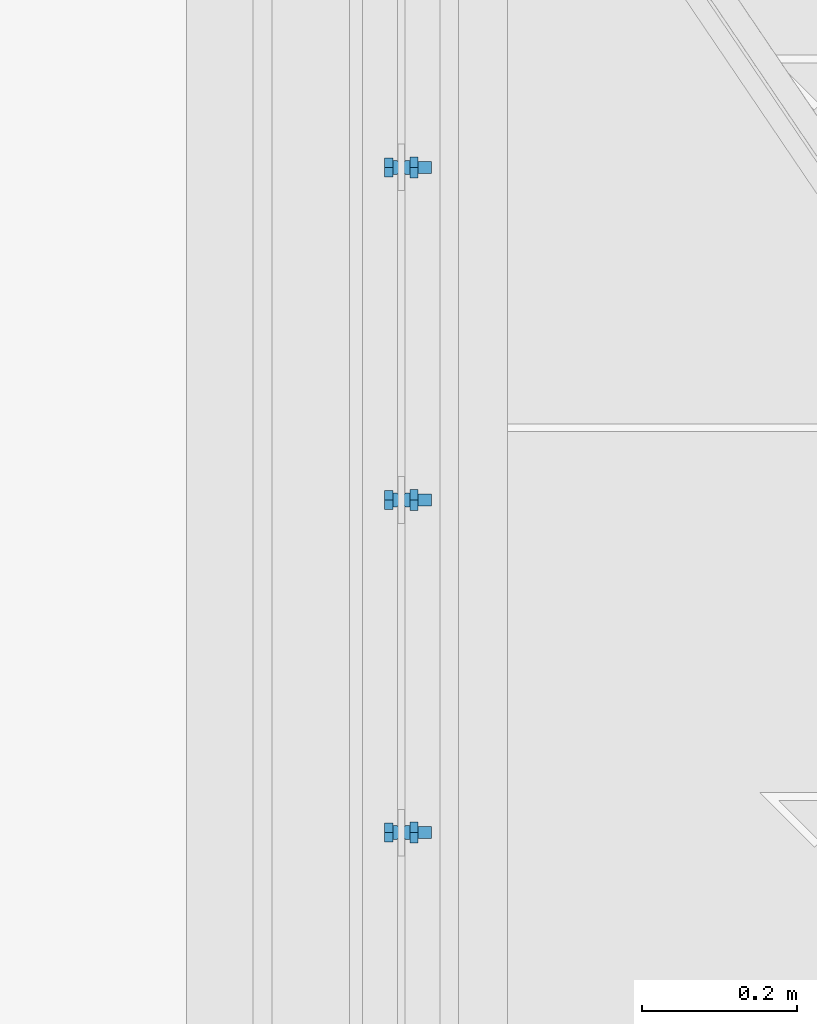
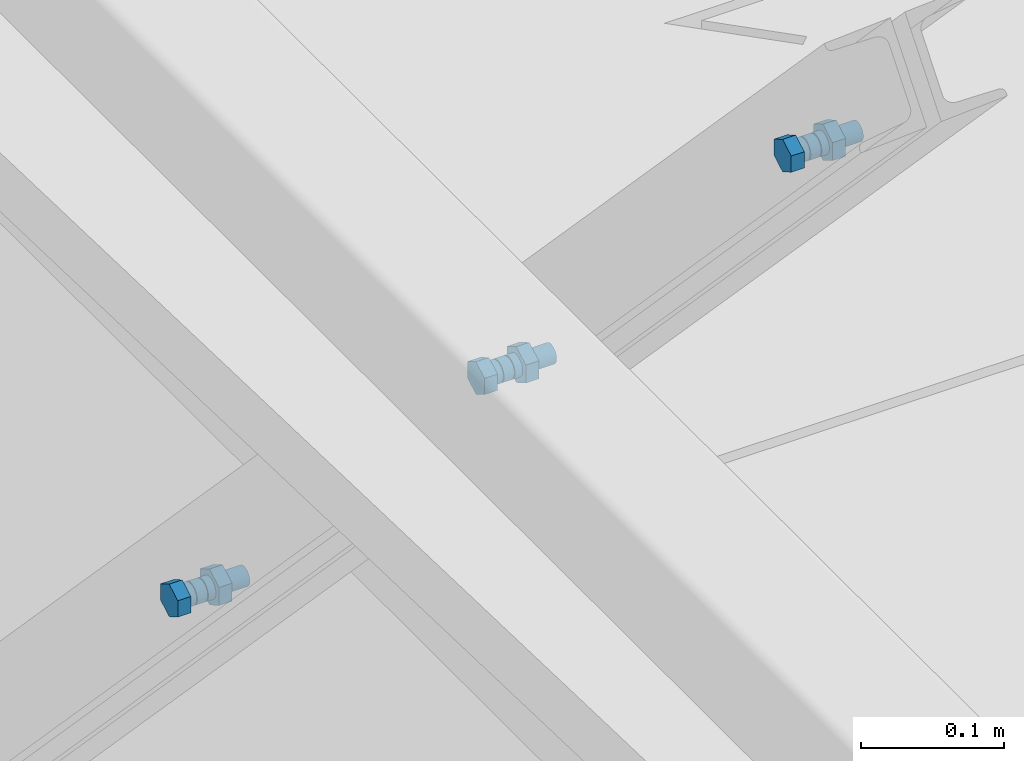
# One storey, part 266 of 362: 3 mechanical fasteners.
"""IFC2X3 building model written with IfcOpenShell, lengths in millimetres."""

from ifc_helpers import new_model, si_unit, frame, origin_with_axes, origin_2d_with_axis, place, context, subcontext, project, spatial, polyline, circle, outline, extrude, source, transform, mapped, material, type_object, element, save


model = new_model("IFC2X3")

# Units and contexts
model_context = context("Model", 3, precision=1e-05, world=origin_with_axes())
body_context = subcontext(model_context, "Body", "Model", "MODEL_VIEW")
ifc_project = project(units=[si_unit("LENGTHUNIT", "METRE", prefix="MILLI"), si_unit("AREAUNIT", "SQUARE_METRE"), si_unit("VOLUMEUNIT", "CUBIC_METRE"), si_unit("MASSUNIT", "GRAM", prefix="KILO"), si_unit("TIMEUNIT", "SECOND"), si_unit("PLANEANGLEUNIT", "RADIAN"), si_unit("SOLIDANGLEUNIT", "STERADIAN"), si_unit("THERMODYNAMICTEMPERATUREUNIT", "DEGREE_CELSIUS"), si_unit("LUMINOUSINTENSITYUNIT", "LUMEN")], contexts=[model_context])

# Site, building, storey
site_placement = place(None, origin_with_axes())
site = spatial("IfcSite", under=ifc_project, at=site_placement, Name="Undefined", CompositionType="ELEMENT")
building_placement = place(site_placement, origin_with_axes())
building = spatial("IfcBuilding", under=site, at=building_placement, Name="Undefined", CompositionType="ELEMENT")
storey_placement = place(building_placement, origin_with_axes())
storey = spatial("IfcBuildingStorey", under=building, at=storey_placement, Name="Undefined", CompositionType="ELEMENT", Elevation=0.0)

# Mechanical fasteners
ifc_material = material(Name="8.8-SB-ZINGUE")
mechanical_fastener_type = type_object("IfcMechanicalFastenerType", Name="Bolt assembly")
shared_shape = source(origin_with_axes(), body_context, "Body", "SweptSolid", [
    extrude(circle(Radius=9.0, at=origin_2d_with_axis()), frame((0.0, -10.9000000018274, 0.0), z_axis=(0.0, 1.0, 0.0), x_axis=(1.0, 0.0, 0.0)), (0.0, 0.0, 1.0), 6.0),
    extrude(circle(Radius=9.0, at=origin_2d_with_axis()), frame((0.0, 4.9000000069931, 0.0), z_axis=(0.0, 1.0, 0.0), x_axis=(1.0, 0.0, 0.0)), (0.0, 0.0, 1.0), 6.1),
    extrude(circle(Radius=9.0, at=origin_2d_with_axis()), frame((0.0, -3.99999923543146, 0.0), z_axis=(0.0, 1.0, 0.0), x_axis=(1.0, 0.0, 0.0)), (0.0, 0.0, 1.0), 8.0),
    extrude(outline(polyline([(13.85640646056, 0.0), (6.92820323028, 12.0000000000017), (-6.92820323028, 12.0000000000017), (-13.85640646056, 0.0), (-6.92820323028, -12.0000000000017), (6.92820323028, -12.0000000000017), (13.85640646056, 0.0)])), frame((0.0, -21.5600000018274, 0.0), z_axis=(0.0, 1.0, 0.0), x_axis=(1.0, 0.0, 0.0)), (0.0, 0.0, 1.0), 10.56),
    extrude(circle(Radius=8.0, at=origin_2d_with_axis()), frame((0.0, -11.0000000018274, 0.0), z_axis=(0.0, 1.0, 0.0), x_axis=(1.0, 0.0, 0.0)), (0.0, 0.0, 1.0), 50.0),
    extrude(outline(polyline([(15.3344231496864, 0.0), (7.6672115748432, 13.2800000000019), (-7.6672115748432, 13.2800000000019), (-15.3344231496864, 0.0), (-7.6672115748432, -13.2800000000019), (7.6672115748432, -13.2800000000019), (15.3344231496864, 0.0)])), frame((0.0, 11.0000000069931, 0.0), z_axis=(0.0, 1.0, 0.0), x_axis=(1.0, 0.0, 0.0)), (0.0, 0.0, 1.0), 10.56),
])
for number, where, z_axis, x_axis, name in (
    (1, (23470.0, 6128.42380086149, 8793.60598800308), (0.0, 1.0, 0.0), (0.0, 0.0, 1.0), "Bolt assembly"),
    (2, (23470.0, 6556.84759796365, 8344.21197344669), (0.0, 1.0, 0.0), (0.0, 0.0, 1.0), "Bolt assembly"),
    (3, (23470.0, 6985.27139506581, 7894.8179588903), (0.0, 1.0, 0.0), (0.0, 0.0, 1.0), "Bolt assembly"),
):
    element("IfcMechanicalFastener", number, at=place(storey_placement, frame(where, z_axis=z_axis, x_axis=x_axis)), inside=storey, type_object=mechanical_fastener_type, material=ifc_material, Name=name, NominalDiameter=16.0, NominalLength=50.0, context=body_context, shape_type="MappedRepresentation", body=[
        mapped(shared_shape, transform((0.0, 0.0, 0.0))),
    ])

save(model, "model.ifc")
